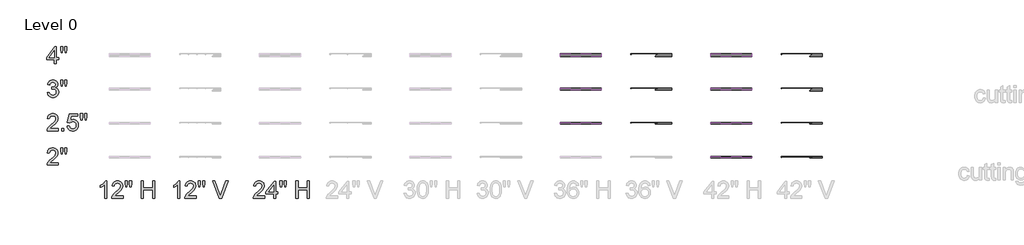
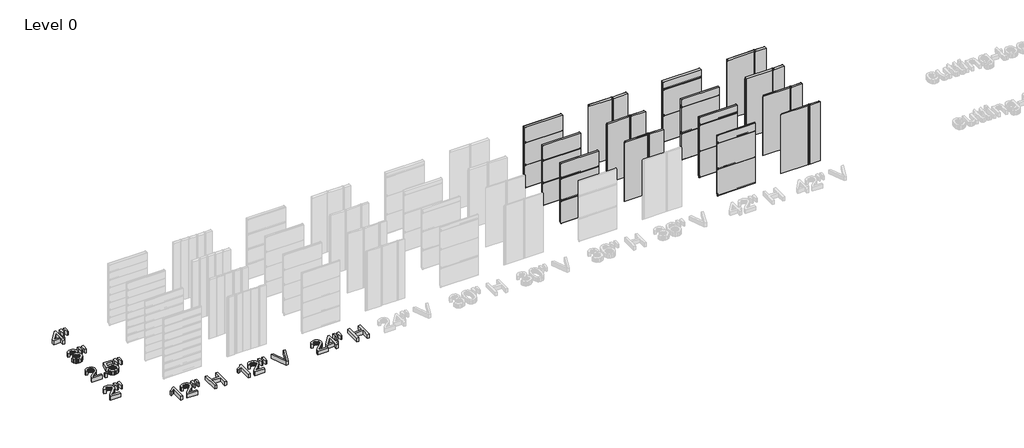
# One storey, part 2 of 5: 35 plates, 7 proxies.
"""IFC4 building model written with IfcOpenShell, lengths in millimetres."""

from ifc_helpers import new_model, si_unit, origin, origin_with_axes, place, context, project, spatial, polyline, outline, extrude, transform, mapped, element, save
from components import plate_dd8bc8b6, plate_0339fd76, plate_47ceeb69, plate_1b0fe15b, plate_1add2ea0, plate_ec5e73b8, plate_5019aeee, plate_1aa83632, plate_90d1a63a, plate_0f1cd221, plate_6702c4e9, plate_3bbae645, plate_aefddf00, plate_1998553f, plate_c49927b6, plate_7b0d1b0b, plate_e8ed7b3b, plate_31e9bed9, plate_fcef75d7, plate_4bd44487, plate_b2574253, plate_c69ce531, plate_15d49aff, plate_4947b39d

model = new_model("IFC4")

# Units and contexts
model_context = context("Model", 3, world=origin())
ifc_project = project(units=[si_unit("LENGTHUNIT", "METRE", prefix="MILLI")], contexts=[model_context])

# Site, building, storey
site = spatial("IfcSite", under=ifc_project)
building = spatial("IfcBuilding", under=site)
storey = spatial("IfcBuildingStorey", under=building, Name="Level 0", Elevation=0.0)

# Proxies
placement = place(None, origin())
element("IfcBuildingElementProxy", 1, Name="24\" Arial", ObjectType="24\" Arial", at=placement, inside=storey, context=model_context, shape_type="SweptSolid", body=[
    extrude(outline(polyline([(-32312.5108068, 10658.7692936), (-32312.5108068, 10582.6275201), (-32712.2551178, 10582.6275201), (-32710.5820807, 10609.433291), (-32704.0758257, 10635.1237038), (-32685.3006325, 10676.1502893), (-32657.8256469, 10715.949981), (-32618.0817231, 10757.6086027), (-32562.4997156, 10804.2119782), (-32480.3350088, 10877.1935707), (-32431.0361847, 10931.0653626), (-32416.657361, 10953.075094), (-32406.3867727, 10974.7873966), (-32400.2244197, 10996.2022704), (-32398.170302, 11017.3197154), (-32400.1082366, 11037.18703), (-32405.9220402, 11055.4463701), (-32415.6117129, 11072.0977357), (-32429.1772547, 11087.1411269), (-32445.8657989, 11099.6006053), (-32464.9244789, 11108.5002328), (-32486.3532947, 11113.8400093), (-32510.1522463, 11115.6199347), (-32535.2245649, 11113.8818352), (-32557.6479082, 11108.6675365), (-32577.4222763, 11099.9770386), (-32594.5476691, 11087.8103417), (-32608.401345, 11072.5764102), (-32618.3605626, 11054.6842088), (-32624.4253218, 11034.1337374), (-32626.5956226, 11010.9249962), (-32702.7373961, 11020.4427178), (-32696.1893151, 11059.7497931), (-32684.278221, 11094.0935251), (-32667.0041138, 11123.4739141), (-32644.3669935, 11147.8909598), (-32616.8873605, 11167.0844123), (-32585.0857153, 11180.7940212), (-32548.9620577, 11189.0197865), (-32508.5163878, 11191.7617083), (-32467.7082266, 11188.713063), (-32431.3893814, 11179.5671273), (-32399.5598522, 11164.3239012), (-32372.219639, 11142.9833846), (-32350.2610281, 11117.1256681), (-32334.5763061, 11088.3308421), (-32325.1654729, 11056.5989067), (-32322.0285285, 11021.9298619), (-32325.4117811, 10985.5134228), (-32335.561539, 10949.72902), (-32353.5745709, 10913.3311702), (-32380.5476454, 10875.0743905), (-32423.5446967, 10829.4004799), (-32489.6296589, 10770.7512379), (-32577.2224413, 10697.5093952), (-32611.575468, 10658.7692936), (-32312.5108068, 10658.7692936)])), origin_with_axes(), (0.0, 0.0, 1.0), 152.4),
    extrude(outline(polyline([(-32217.7797331, 10972.8541094), (-32236.3690333, 11090.4872009), (-32236.3690333, 11191.7617083), (-32160.2272598, 11191.7617083), (-32160.2272598, 11090.4872009), (-32176.8832727, 10972.8541094), (-32217.7797331, 10972.8541094)])), origin_with_axes(), (0.0, 0.0, 1.0), 152.4),
    extrude(outline(polyline([(-32065.9423293, 10972.8541094), (-32084.0854862, 11090.4872009), (-32084.0854862, 11191.7617083), (-32007.9437127, 11191.7617083), (-32007.9437127, 11090.4872009), (-32025.7894409, 10972.8541094), (-32065.9423293, 10972.8541094)])), origin_with_axes(), (0.0, 0.0, 1.0), 152.4),
])
element("IfcBuildingElementProxy", 2, Name="24\" Arial", ObjectType="24\" Arial", at=placement, inside=storey, context=model_context, shape_type="SweptSolid", body=[
    extrude(outline(polyline([(-32312.5108068, 11877.9692936), (-32312.5108068, 11801.8275201), (-32712.2551178, 11801.8275201), (-32710.5820807, 11828.633291), (-32704.0758257, 11854.3237038), (-32685.3006325, 11895.3502893), (-32657.8256469, 11935.149981), (-32618.0817231, 11976.8086027), (-32562.4997156, 12023.4119782), (-32480.3350088, 12096.3935707), (-32431.0361847, 12150.2653626), (-32416.657361, 12172.275094), (-32406.3867727, 12193.9873966), (-32400.2244197, 12215.4022704), (-32398.170302, 12236.5197154), (-32400.1082366, 12256.38703), (-32405.9220402, 12274.6463701), (-32415.6117129, 12291.2977357), (-32429.1772547, 12306.3411269), (-32445.8657989, 12318.8006053), (-32464.9244789, 12327.7002328), (-32486.3532947, 12333.0400093), (-32510.1522463, 12334.8199347), (-32535.2245649, 12333.0818352), (-32557.6479082, 12327.8675365), (-32577.4222763, 12319.1770386), (-32594.5476691, 12307.0103417), (-32608.401345, 12291.7764102), (-32618.3605626, 12273.8842088), (-32624.4253218, 12253.3337374), (-32626.5956226, 12230.1249962), (-32702.7373961, 12239.6427178), (-32696.1893151, 12278.9497931), (-32684.278221, 12313.2935251), (-32667.0041138, 12342.6739141), (-32644.3669935, 12367.0909598), (-32616.8873605, 12386.2844123), (-32585.0857153, 12399.9940212), (-32548.9620577, 12408.2197865), (-32508.5163878, 12410.9617083), (-32467.7082266, 12407.913063), (-32431.3893814, 12398.7671273), (-32399.5598522, 12383.5239012), (-32372.219639, 12362.1833846), (-32350.2610281, 12336.3256681), (-32334.5763061, 12307.5308421), (-32325.1654729, 12275.7989067), (-32322.0285285, 12241.1298619), (-32325.4117811, 12204.7134228), (-32335.561539, 12168.92902), (-32353.5745709, 12132.5311702), (-32380.5476454, 12094.2743905), (-32423.5446967, 12048.6004799), (-32489.6296589, 11989.9512379), (-32577.2224413, 11916.7093952), (-32611.575468, 11877.9692936), (-32312.5108068, 11877.9692936)])), origin_with_axes(), (0.0, 0.0, 1.0), 152.4),
    extrude(outline(polyline([(-32198.2981465, 11801.8275201), (-32198.2981465, 11877.9692936), (-32122.156373, 11877.9692936), (-32122.156373, 11801.8275201), (-32198.2981465, 11801.8275201)])), origin_with_axes(), (0.0, 0.0, 1.0), 152.4),
    extrude(outline(polyline([(-31998.425991, 11963.6287888), (-31922.2842175, 11973.1465105), (-31916.5958917, 11948.6690495), (-31908.3050638, 11927.4354214), (-31897.4117339, 11909.4456262), (-31883.915902, 11894.6996638), (-31867.845452, 11883.2161236), (-31849.2282678, 11875.0135949), (-31828.0643496, 11870.0920777), (-31804.3536972, 11868.4515719), (-31775.3543889, 11870.7334085), (-31749.7755119, 11877.5789183), (-31727.6170661, 11888.9881013), (-31708.8790515, 11904.9609575), (-31693.9797274, 11924.7074416), (-31683.3373531, 11947.4375084), (-31676.9519285, 11973.1511579), (-31674.8234536, 12001.84839), (-31676.817156, 12028.970179), (-31682.7982634, 12053.0805013), (-31692.7667756, 12074.179357), (-31706.7226927, 12092.2667461), (-31724.7124879, 12106.7756948), (-31746.7826346, 12117.1392297), (-31772.9331326, 12123.3573506), (-31803.163982, 12125.4300576), (-31840.1009215, 12122.1211621), (-31870.0111054, 12112.1944758), (-31893.8983562, 12096.9884283), (-31912.7664958, 12077.8414491), (-31988.9082694, 12087.3591708), (-31922.2842175, 12401.4439866), (-31627.2348451, 12401.4439866), (-31627.2348451, 12325.3022131), (-31860.7164553, 12325.3022131), (-31893.2849093, 12157.5523683), (-31866.4140758, 12176.8108833), (-31838.8926169, 12190.5669654), (-31810.7205325, 12198.8206147), (-31781.8978226, 12201.5718311), (-31744.8168161, 12198.1606945), (-31710.7565708, 12187.9272848), (-31679.7170869, 12170.8716018), (-31651.6983642, 12146.9936458), (-31628.5035649, 12117.7526766), (-31611.9358511, 12084.6079544), (-31601.9952228, 12047.5594791), (-31598.6816801, 12006.6072509), (-31601.6652628, 11967.1607559), (-31610.6160108, 11930.4654773), (-31625.5339242, 11896.5214152), (-31646.4190029, 11865.3285695), (-31678.0579918, 11833.3828572), (-31714.976342, 11810.5644912), (-31757.1740534, 11796.8734716), (-31804.651126, 11792.3097984), (-31843.9442593, 11795.2422605), (-31879.4358806, 11804.0396468), (-31911.1259901, 11818.7019574), (-31939.0145877, 11839.2291921), (-31962.2186816, 11864.5989395), (-31979.8552802, 11893.7887881), (-31991.9243833, 11926.7987379), (-31998.425991, 11963.6287888)])), origin_with_axes(), (0.0, 0.0, 1.0), 152.4),
    extrude(outline(polyline([(-31513.4683281, 12192.0541094), (-31532.0576283, 12309.6872009), (-31532.0576283, 12410.9617083), (-31455.9158547, 12410.9617083), (-31455.9158547, 12309.6872009), (-31472.5718677, 12192.0541094), (-31513.4683281, 12192.0541094)])), origin_with_axes(), (0.0, 0.0, 1.0), 152.4),
    extrude(outline(polyline([(-31361.6309242, 12192.0541094), (-31379.7740812, 12309.6872009), (-31379.7740812, 12410.9617083), (-31303.6323077, 12410.9617083), (-31303.6323077, 12309.6872009), (-31321.4780359, 12192.0541094), (-31361.6309242, 12192.0541094)])), origin_with_axes(), (0.0, 0.0, 1.0), 152.4),
])
element("IfcBuildingElementProxy", 3, Name="24\" Arial", ObjectType="24\" Arial", at=placement, inside=storey, context=model_context, shape_type="SweptSolid", body=[
    extrude(outline(polyline([(-32702.7373961, 13157.4287888), (-32626.5956226, 13166.9465105), (-32609.5492343, 13119.0976519), (-32598.0563995, 13101.0009682), (-32584.5838042, 13086.7894482), (-32568.8247249, 13076.0541273), (-32550.4724383, 13068.386041), (-32529.5269444, 13063.7851892), (-32505.988243, 13062.2515719), (-32478.4017216, 13064.3614575), (-32453.7894881, 13070.6911142), (-32432.1515427, 13081.2405421), (-32413.4878854, 13096.0097411), (-32398.4584362, 13113.8926478), (-32387.7231153, 13133.783199), (-32381.2819228, 13155.6813946), (-32379.1348586, 13179.5872347), (-32381.2633335, 13202.35448), (-32387.6487581, 13223.0676078), (-32398.2911325, 13241.7266178), (-32413.1904565, 13258.3315102), (-32431.3707921, 13271.9621145), (-32451.8562009, 13281.6982605), (-32474.6466829, 13287.5399481), (-32499.7422382, 13289.4871773), (-32523.7967926, 13287.4051757), (-32553.1307083, 13281.1591708), (-32544.6539874, 13357.3009443), (-32532.4594065, 13356.4086579), (-32486.8412638, 13361.8739122), (-32446.0563393, 13378.2696749), (-32429.2702012, 13390.6687381), (-32417.2801026, 13406.0049108), (-32410.0860434, 13424.2781929), (-32407.6880237, 13445.4885844), (-32409.4261233, 13462.7069236), (-32414.640422, 13478.3730564), (-32423.3309198, 13492.4869825), (-32435.4976168, 13505.0487021), (-32450.4062355, 13515.3611164), (-32467.3224987, 13522.7271266), (-32486.2464062, 13527.1467327), (-32507.1779582, 13528.6199347), (-32528.0537423, 13527.1327907), (-32547.107775, 13522.6713587), (-32564.3400563, 13515.2356386), (-32579.7505861, 13504.8256305), (-32592.9582839, 13491.4413344), (-32603.5820689, 13475.0827502), (-32611.6219413, 13455.7498781), (-32617.0779009, 13433.4427178), (-32693.2196744, 13442.9604395), (-32684.1945692, 13479.311816), (-32670.8009784, 13511.3318856), (-32653.0389021, 13539.0206482), (-32630.9083402, 13562.3781039), (-32605.1063916, 13580.9209308), (-32576.3301549, 13594.1658072), (-32544.5796302, 13602.112733), (-32509.8548175, 13604.7617083), (-32461.9873695, 13599.5381149), (-32418.0236746, 13583.8673349), (-32380.95661, 13559.1435656), (-32353.7790532, 13526.7610047), (-32337.1044509, 13489.4522793), (-32331.5462502, 13449.9500164), (-32336.8256114, 13413.1432021), (-32352.6636952, 13379.7568189), (-32378.8374298, 13351.3151897), (-32415.1237438, 13329.3426369), (-32389.749349, 13321.4050057), (-32367.4607781, 13310.0841219), (-32348.258031, 13295.3799854), (-32332.1411078, 13277.2925964), (-32319.3888479, 13256.2680979), (-32310.2800908, 13232.7526332), (-32304.8148365, 13206.7462022), (-32302.9930851, 13178.248805), (-32306.6365879, 13139.6202393), (-32317.5670964, 13104.0403187), (-32335.7846106, 13071.5090434), (-32361.2891305, 13042.0264134), (-32392.3611457, 13017.5628943), (-32427.2811461, 13000.0889522), (-32466.0491316, 12989.6045869), (-32508.6651022, 12986.1097984), (-32547.1821322, 12989.0933811), (-32582.2787309, 12998.0441291), (-32613.9548984, 13012.9620425), (-32642.2106347, 13033.8471213), (-32665.9026978, 13059.4724716), (-32683.8878457, 13088.6111996), (-32696.1660785, 13121.2633054), (-32702.7373961, 13157.4287888)])), origin_with_axes(), (0.0, 0.0, 1.0), 152.4),
    extrude(outline(polyline([(-32217.7797331, 13385.8541094), (-32236.3690333, 13503.4872009), (-32236.3690333, 13604.7617083), (-32160.2272598, 13604.7617083), (-32160.2272598, 13503.4872009), (-32176.8832727, 13385.8541094), (-32217.7797331, 13385.8541094)])), origin_with_axes(), (0.0, 0.0, 1.0), 152.4),
    extrude(outline(polyline([(-32065.9423293, 13385.8541094), (-32084.0854862, 13503.4872009), (-32084.0854862, 13604.7617083), (-32007.9437127, 13604.7617083), (-32007.9437127, 13503.4872009), (-32025.7894409, 13385.8541094), (-32065.9423293, 13385.8541094)])), origin_with_axes(), (0.0, 0.0, 1.0), 152.4),
])
element("IfcBuildingElementProxy", 4, Name="24\" Arial", ObjectType="24\" Arial", at=placement, inside=storey, context=model_context, shape_type="SweptSolid", body=[
    extrude(outline(polyline([(-32455.2766321, 14189.4275201), (-32455.2766321, 14332.1933455), (-32731.2905611, 14332.1933455), (-32731.2905611, 14408.335119), (-32436.2411888, 14789.0439866), (-32379.1348586, 14789.0439866), (-32379.1348586, 14408.335119), (-32302.9930851, 14408.335119), (-32302.9930851, 14332.1933455), (-32379.1348586, 14332.1933455), (-32379.1348586, 14189.4275201), (-32455.2766321, 14189.4275201)]), holes=[polyline([(-32455.2766321, 14408.335119), (-32455.2766321, 14643.601302), (-32637.6004883, 14408.335119), (-32455.2766321, 14408.335119)])]), origin_with_axes(), (0.0, 0.0, 1.0), 152.4),
    extrude(outline(polyline([(-32217.7797331, 14579.6541094), (-32236.3690333, 14697.2872009), (-32236.3690333, 14798.5617083), (-32160.2272598, 14798.5617083), (-32160.2272598, 14697.2872009), (-32176.8832727, 14579.6541094), (-32217.7797331, 14579.6541094)])), origin_with_axes(), (0.0, 0.0, 1.0), 152.4),
    extrude(outline(polyline([(-32065.9423293, 14579.6541094), (-32084.0854862, 14697.2872009), (-32084.0854862, 14798.5617083), (-32007.9437127, 14798.5617083), (-32007.9437127, 14697.2872009), (-32025.7894409, 14579.6541094), (-32065.9423293, 14579.6541094)])), origin_with_axes(), (0.0, 0.0, 1.0), 152.4),
])
element("IfcBuildingElementProxy", 5, Name="24\" Arial", ObjectType="24\" Arial", at=placement, inside=storey, context=model_context, shape_type="SweptSolid", body=[
    extrude(outline(polyline([(-30589.8489204, 9409.440542), (-30665.9906939, 9409.440542), (-30665.9906939, 9884.1369113), (-30697.7783972, 9858.4279091), (-30738.1171786, 9832.7560856), (-30780.4636044, 9810.3188003), (-30818.2742409, 9794.3134128), (-30818.2742409, 9866.2911831), (-30758.4724623, 9898.8224584), (-30706.6640827, 9937.5253814), (-30665.8233902, 9978.682092), (-30638.9246728, 10018.5747302), (-30589.8489204, 10018.5747302), (-30589.8489204, 9409.440542)])), origin_with_axes(), (0.0, 0.0, 1.0), 152.4),
    extrude(outline(polyline([(-30018.785619, 9485.5823155), (-30018.785619, 9409.440542), (-30418.52993, 9409.440542), (-30416.8568929, 9436.2463129), (-30410.3506379, 9461.9367257), (-30391.5754447, 9502.9633112), (-30364.100459, 9542.7630029), (-30324.3565353, 9584.4216246), (-30268.7745278, 9631.0250001), (-30186.609821, 9704.0065926), (-30137.3109969, 9757.8783845), (-30122.9321732, 9779.8881159), (-30112.6615849, 9801.6004185), (-30106.4992319, 9823.0152923), (-30104.4451142, 9844.1327373), (-30106.3830487, 9864.0000519), (-30112.1968524, 9882.259392), (-30121.8865251, 9898.9107576), (-30135.4520669, 9913.9541488), (-30152.1406111, 9926.4136272), (-30171.1992911, 9935.3132547), (-30192.6281069, 9940.6530311), (-30216.4270585, 9942.4329566), (-30241.4993771, 9940.6948571), (-30263.9227204, 9935.4805584), (-30283.6970885, 9926.7900605), (-30300.8224813, 9914.6233636), (-30314.6761572, 9899.3894321), (-30324.6353748, 9881.4972307), (-30330.700134, 9860.9467593), (-30332.8704348, 9837.7380181), (-30409.0122083, 9847.2557397), (-30402.4641273, 9886.562815), (-30390.5530332, 9920.906547), (-30373.278926, 9950.286936), (-30350.6418057, 9974.7039817), (-30323.1621727, 9993.8974342), (-30291.3605275, 10007.6070431), (-30255.2368699, 10015.8328084), (-30214.7912, 10018.5747302), (-30173.9830388, 10015.5260849), (-30137.6641936, 10006.3801492), (-30105.8346644, 9991.1369231), (-30078.4944512, 9969.7964065), (-30056.5358403, 9943.93869), (-30040.8511183, 9915.143864), (-30031.4402851, 9883.4119286), (-30028.3033407, 9848.7428838), (-30031.6865933, 9812.3264447), (-30041.8363512, 9776.5420419), (-30059.8493831, 9740.1441921), (-30086.8224576, 9701.8874124), (-30129.8195089, 9656.2135018), (-30195.9044711, 9597.5642598), (-30283.4972535, 9524.3224171), (-30317.8502802, 9485.5823155), (-30018.785619, 9485.5823155)])), origin_with_axes(), (0.0, 0.0, 1.0), 152.4),
    extrude(outline(polyline([(-29924.0545453, 9799.6671313), (-29942.6438455, 9917.3002228), (-29942.6438455, 10018.5747302), (-29866.502072, 10018.5747302), (-29866.502072, 9917.3002228), (-29883.1580849, 9799.6671313), (-29924.0545453, 9799.6671313)])), origin_with_axes(), (0.0, 0.0, 1.0), 152.4),
    extrude(outline(polyline([(-29772.2171415, 9799.6671313), (-29790.3602984, 9917.3002228), (-29790.3602984, 10018.5747302), (-29714.2185249, 10018.5747302), (-29714.2185249, 9917.3002228), (-29732.0642531, 9799.6671313), (-29772.2171415, 9799.6671313)])), origin_with_axes(), (0.0, 0.0, 1.0), 152.4),
    extrude(outline(polyline([(-29371.5805441, 9409.440542), (-29371.5805441, 10018.5747302), (-29295.4387706, 10018.5747302), (-29295.4387706, 9771.1139662), (-28971.8362331, 9771.1139662), (-28971.8362331, 10018.5747302), (-28895.6944596, 10018.5747302), (-28895.6944596, 9409.440542), (-28971.8362331, 9409.440542), (-28971.8362331, 9694.9721927), (-29295.4387706, 9694.9721927), (-29295.4387706, 9409.440542), (-29371.5805441, 9409.440542)])), origin_with_axes(), (0.0, 0.0, 1.0), 152.4),
])
element("IfcBuildingElementProxy", 6, Name="24\" Arial", ObjectType="24\" Arial", at=placement, inside=storey, context=model_context, shape_type="SweptSolid", body=[
    extrude(outline(polyline([(-27999.0489204, 9409.440542), (-28075.1906939, 9409.440542), (-28075.1906939, 9884.1369113), (-28106.9783972, 9858.4279091), (-28147.3171786, 9832.7560856), (-28189.6636044, 9810.3188003), (-28227.4742409, 9794.3134128), (-28227.4742409, 9866.2911831), (-28167.6724623, 9898.8224584), (-28115.8640827, 9937.5253814), (-28075.0233902, 9978.682092), (-28048.1246728, 10018.5747302), (-27999.0489204, 10018.5747302), (-27999.0489204, 9409.440542)])), origin_with_axes(), (0.0, 0.0, 1.0), 152.4),
    extrude(outline(polyline([(-27427.985619, 9485.5823155), (-27427.985619, 9409.440542), (-27827.72993, 9409.440542), (-27826.0568929, 9436.2463129), (-27819.5506379, 9461.9367257), (-27800.7754447, 9502.9633112), (-27773.300459, 9542.7630029), (-27733.5565353, 9584.4216246), (-27677.9745278, 9631.0250001), (-27595.809821, 9704.0065926), (-27546.5109969, 9757.8783845), (-27532.1321732, 9779.8881159), (-27521.8615849, 9801.6004185), (-27515.6992319, 9823.0152923), (-27513.6451142, 9844.1327373), (-27515.5830487, 9864.0000519), (-27521.3968524, 9882.259392), (-27531.0865251, 9898.9107576), (-27544.6520669, 9913.9541488), (-27561.3406111, 9926.4136272), (-27580.3992911, 9935.3132547), (-27601.8281069, 9940.6530311), (-27625.6270585, 9942.4329566), (-27650.6993771, 9940.6948571), (-27673.1227204, 9935.4805584), (-27692.8970885, 9926.7900605), (-27710.0224813, 9914.6233636), (-27723.8761572, 9899.3894321), (-27733.8353748, 9881.4972307), (-27739.900134, 9860.9467593), (-27742.0704348, 9837.7380181), (-27818.2122083, 9847.2557397), (-27811.6641273, 9886.562815), (-27799.7530332, 9920.906547), (-27782.478926, 9950.286936), (-27759.8418057, 9974.7039817), (-27732.3621727, 9993.8974342), (-27700.5605275, 10007.6070431), (-27664.4368699, 10015.8328084), (-27623.9912, 10018.5747302), (-27583.1830388, 10015.5260849), (-27546.8641936, 10006.3801492), (-27515.0346644, 9991.1369231), (-27487.6944512, 9969.7964065), (-27465.7358403, 9943.93869), (-27450.0511183, 9915.143864), (-27440.6402851, 9883.4119286), (-27437.5033407, 9848.7428838), (-27440.8865933, 9812.3264447), (-27451.0363512, 9776.5420419), (-27469.0493831, 9740.1441921), (-27496.0224576, 9701.8874124), (-27539.0195089, 9656.2135018), (-27605.1044711, 9597.5642598), (-27692.6972535, 9524.3224171), (-27727.0502802, 9485.5823155), (-27427.985619, 9485.5823155)])), origin_with_axes(), (0.0, 0.0, 1.0), 152.4),
    extrude(outline(polyline([(-27333.2545453, 9799.6671313), (-27351.8438455, 9917.3002228), (-27351.8438455, 10018.5747302), (-27275.702072, 10018.5747302), (-27275.702072, 9917.3002228), (-27292.3580849, 9799.6671313), (-27333.2545453, 9799.6671313)])), origin_with_axes(), (0.0, 0.0, 1.0), 152.4),
    extrude(outline(polyline([(-27181.4171415, 9799.6671313), (-27199.5602984, 9917.3002228), (-27199.5602984, 10018.5747302), (-27123.4185249, 10018.5747302), (-27123.4185249, 9917.3002228), (-27141.2642531, 9799.6671313), (-27181.4171415, 9799.6671313)])), origin_with_axes(), (0.0, 0.0, 1.0), 152.4),
    extrude(outline(polyline([(-26600.8361184, 9409.440542), (-26843.2405927, 10018.5747302), (-26761.7451007, 10018.5747302), (-26599.4976888, 9579.7185316), (-26566.6318061, 9480.8234547), (-26534.2120666, 9579.7185316), (-26371.5185114, 10018.5747302), (-26290.0230195, 10018.5747302), (-26522.1662001, 9409.440542), (-26600.8361184, 9409.440542)])), origin_with_axes(), (0.0, 0.0, 1.0), 152.4),
])
element("IfcBuildingElementProxy", 7, Name="24\" Arial", ObjectType="24\" Arial", at=placement, inside=storey, context=model_context, shape_type="SweptSolid", body=[
    extrude(outline(polyline([(-24998.7539818, 9485.5823155), (-24998.7539818, 9409.440542), (-25398.4982928, 9409.440542), (-25396.8252557, 9436.2463129), (-25390.3190007, 9461.9367257), (-25371.5438075, 9502.9633112), (-25344.0688218, 9542.7630029), (-25304.3248981, 9584.4216246), (-25248.7428905, 9631.0250001), (-25166.5781838, 9704.0065926), (-25117.2793597, 9757.8783845), (-25102.900536, 9779.8881159), (-25092.6299477, 9801.6004185), (-25086.4675947, 9823.0152923), (-25084.413477, 9844.1327373), (-25086.3514115, 9864.0000519), (-25092.1652152, 9882.259392), (-25101.8548879, 9898.9107576), (-25115.4204297, 9913.9541488), (-25132.1089739, 9926.4136272), (-25151.1676539, 9935.3132547), (-25172.5964697, 9940.6530311), (-25196.3954213, 9942.4329566), (-25221.4677399, 9940.6948571), (-25243.8910832, 9935.4805584), (-25263.6654513, 9926.7900605), (-25280.790844, 9914.6233636), (-25294.64452, 9899.3894321), (-25304.6037376, 9881.4972307), (-25310.6684968, 9860.9467593), (-25312.8387975, 9837.7380181), (-25388.9805711, 9847.2557397), (-25382.4324901, 9886.562815), (-25370.521396, 9920.906547), (-25353.2472888, 9950.286936), (-25330.6101685, 9974.7039817), (-25303.1305355, 9993.8974342), (-25271.3288903, 10007.6070431), (-25235.2052327, 10015.8328084), (-25194.7595628, 10018.5747302), (-25153.9514016, 10015.5260849), (-25117.6325564, 10006.3801492), (-25085.8030272, 9991.1369231), (-25058.462814, 9969.7964065), (-25036.5042031, 9943.93869), (-25020.8194811, 9915.143864), (-25011.4086479, 9883.4119286), (-25008.2717035, 9848.7428838), (-25011.6549561, 9812.3264447), (-25021.804714, 9776.5420419), (-25039.8177459, 9740.1441921), (-25066.7908204, 9701.8874124), (-25109.7878717, 9656.2135018), (-25175.8728339, 9597.5642598), (-25263.4656163, 9524.3224171), (-25297.818643, 9485.5823155), (-24998.7539818, 9485.5823155)])), origin_with_axes(), (0.0, 0.0, 1.0), 152.4),
    extrude(outline(polyline([(-24675.1514443, 9409.440542), (-24675.1514443, 9552.2063674), (-24951.1653733, 9552.2063674), (-24951.1653733, 9628.3481409), (-24656.116001, 10009.0570085), (-24599.0096708, 10009.0570085), (-24599.0096708, 9628.3481409), (-24522.8678973, 9628.3481409), (-24522.8678973, 9552.2063674), (-24599.0096708, 9552.2063674), (-24599.0096708, 9409.440542), (-24675.1514443, 9409.440542)]), holes=[polyline([(-24675.1514443, 9628.3481409), (-24675.1514443, 9863.6143239), (-24857.4753005, 9628.3481409), (-24675.1514443, 9628.3481409)])]), origin_with_axes(), (0.0, 0.0, 1.0), 152.4),
    extrude(outline(polyline([(-24437.6545453, 9799.6671313), (-24456.2438455, 9917.3002228), (-24456.2438455, 10018.5747302), (-24380.102072, 10018.5747302), (-24380.102072, 9917.3002228), (-24396.7580849, 9799.6671313), (-24437.6545453, 9799.6671313)])), origin_with_axes(), (0.0, 0.0, 1.0), 152.4),
    extrude(outline(polyline([(-24285.8171415, 9799.6671313), (-24303.9602984, 9917.3002228), (-24303.9602984, 10018.5747302), (-24227.8185249, 10018.5747302), (-24227.8185249, 9917.3002228), (-24245.6642531, 9799.6671313), (-24285.8171415, 9799.6671313)])), origin_with_axes(), (0.0, 0.0, 1.0), 152.4),
    extrude(outline(polyline([(-23885.1805441, 9409.440542), (-23885.1805441, 10018.5747302), (-23809.0387706, 10018.5747302), (-23809.0387706, 9771.1139662), (-23485.4362331, 9771.1139662), (-23485.4362331, 10018.5747302), (-23409.2944596, 10018.5747302), (-23409.2944596, 9409.440542), (-23485.4362331, 9409.440542), (-23485.4362331, 9694.9721927), (-23809.0387706, 9694.9721927), (-23809.0387706, 9409.440542), (-23885.1805441, 9409.440542)])), origin_with_axes(), (0.0, 0.0, 1.0), 152.4),
])

# Plates
plate_shape = plate_dd8bc8b6(model_context)
element("IfcPlate", 8, ObjectType="KIP-42-DWTR-R19-CP-Hz-F : Hz 2\"", at=placement, inside=storey, context=model_context, shape_type="MappedRepresentation", body=[
    mapped(plate_shape, transform((-8448.7250935, 10881.8207172, 0.0), x_axis=(1.0, 0.0, 0.0), y_axis=(0.0, 1.0, 0.0), z_axis=(0.0, 0.0, 1.0))),
])
element("IfcPlate", 9, ObjectType="KIP-42-DWTR-R19-CP-Hz-F : Hz 2\"", at=placement, inside=storey, context=model_context, shape_type="MappedRepresentation", body=[
    mapped(plate_shape, transform((-8448.7250935, 10881.8207172, 1066.8), x_axis=(1.0, 0.0, 0.0), y_axis=(0.0, 1.0, 0.0), z_axis=(0.0, 0.0, 1.0))),
])
plate_2_shape = plate_0339fd76(model_context)
element("IfcPlate", 10, ObjectType="KIP-42-DWTR-R19-CP-Hz-F : Hz 2\"", at=placement, inside=storey, context=model_context, shape_type="MappedRepresentation", body=[
    mapped(plate_2_shape, transform((-8448.7250935, 10881.8207172, 2133.6), x_axis=(1.0, 0.0, 0.0), y_axis=(0.0, 1.0, 0.0), z_axis=(0.0, 0.0, 1.0))),
])
element("IfcPlate", 11, ObjectType="KIP-42-DWTR-R19-CP-Hz-F : Hz 2.5\"", at=placement, inside=storey, context=model_context, shape_type="MappedRepresentation", body=[
    mapped(plate_shape, transform((-8448.7250935, 12101.0207172, 0.0), x_axis=(1.0, 0.0, 0.0), y_axis=(0.0, 1.0, 0.0), z_axis=(0.0, 0.0, 1.0))),
])
element("IfcPlate", 12, ObjectType="KIP-42-DWTR-R19-CP-Hz-F : Hz 2.5\"", at=placement, inside=storey, context=model_context, shape_type="MappedRepresentation", body=[
    mapped(plate_shape, transform((-8448.7250935, 12101.0207172, 1066.8), x_axis=(1.0, 0.0, 0.0), y_axis=(0.0, 1.0, 0.0), z_axis=(0.0, 0.0, 1.0))),
])
element("IfcPlate", 13, ObjectType="KIP-42-DWTR-R19-CP-Hz-F : Hz 2.5\"", at=placement, inside=storey, context=model_context, shape_type="MappedRepresentation", body=[
    mapped(plate_2_shape, transform((-8448.7250935, 12101.0207172, 2133.6), x_axis=(1.0, 0.0, 0.0), y_axis=(0.0, 1.0, 0.0), z_axis=(0.0, 0.0, 1.0))),
])
plate_3_shape = plate_47ceeb69(model_context)
element("IfcPlate", 14, ObjectType="KIP-36-DWTR-R19-CP-Hz-F : Hz 2.5\"", at=placement, inside=storey, context=model_context, shape_type="MappedRepresentation", body=[
    mapped(plate_3_shape, transform((-13782.7250935, 12101.0207172, 0.0), x_axis=(1.0, 0.0, 0.0), y_axis=(0.0, 1.0, 0.0), z_axis=(0.0, 0.0, 1.0))),
])
element("IfcPlate", 15, ObjectType="KIP-36-DWTR-R19-CP-Hz-F : Hz 2.5\"", at=placement, inside=storey, context=model_context, shape_type="MappedRepresentation", body=[
    mapped(plate_3_shape, transform((-13782.7250935, 12101.0207172, 914.4), x_axis=(1.0, 0.0, 0.0), y_axis=(0.0, 1.0, 0.0), z_axis=(0.0, 0.0, 1.0))),
])
plate_4_shape = plate_1b0fe15b(model_context)
element("IfcPlate", 16, ObjectType="KIP-36-DWTR-R19-CP-Hz-F : Hz 2.5\"", at=placement, inside=storey, context=model_context, shape_type="MappedRepresentation", body=[
    mapped(plate_4_shape, transform((-13782.7250935, 12101.0207172, 1828.8), x_axis=(1.0, 0.0, 0.0), y_axis=(0.0, 1.0, 0.0), z_axis=(0.0, 0.0, 1.0))),
])
plate_5_shape = plate_1add2ea0(model_context)
element("IfcPlate", 17, ObjectType="KIP-42-DWTR-R19-CP-Hz-F : Hz 3\"", at=placement, inside=storey, context=model_context, shape_type="MappedRepresentation", body=[
    mapped(plate_5_shape, transform((-8448.7250935, 13320.2207172, 0.0), x_axis=(1.0, 0.0, 0.0), y_axis=(0.0, 1.0, 0.0), z_axis=(0.0, 0.0, 1.0))),
])
element("IfcPlate", 18, ObjectType="KIP-42-DWTR-R19-CP-Hz-F : Hz 3\"", at=placement, inside=storey, context=model_context, shape_type="MappedRepresentation", body=[
    mapped(plate_5_shape, transform((-8448.7250935, 13320.2207172, 1066.8), x_axis=(1.0, 0.0, 0.0), y_axis=(0.0, 1.0, 0.0), z_axis=(0.0, 0.0, 1.0))),
])
plate_6_shape = plate_ec5e73b8(model_context)
element("IfcPlate", 19, ObjectType="KIP-42-DWTR-R19-CP-Hz-F : Hz 3\"", at=placement, inside=storey, context=model_context, shape_type="MappedRepresentation", body=[
    mapped(plate_6_shape, transform((-8448.7250935, 13320.2207172, 2133.6), x_axis=(1.0, 0.0, 0.0), y_axis=(0.0, 1.0, 0.0), z_axis=(0.0, 0.0, 1.0))),
])
plate_7_shape = plate_5019aeee(model_context)
element("IfcPlate", 20, ObjectType="KIP-36-DWTR-R19-CP-Hz-F : Hz 3\"", at=placement, inside=storey, context=model_context, shape_type="MappedRepresentation", body=[
    mapped(plate_7_shape, transform((-13782.7250935, 13320.2207172, 0.0), x_axis=(1.0, 0.0, 0.0), y_axis=(0.0, 1.0, 0.0), z_axis=(0.0, 0.0, 1.0))),
])
element("IfcPlate", 21, ObjectType="KIP-36-DWTR-R19-CP-Hz-F : Hz 3\"", at=placement, inside=storey, context=model_context, shape_type="MappedRepresentation", body=[
    mapped(plate_7_shape, transform((-13782.7250935, 13320.2207172, 914.4), x_axis=(1.0, 0.0, 0.0), y_axis=(0.0, 1.0, 0.0), z_axis=(0.0, 0.0, 1.0))),
])
plate_8_shape = plate_1aa83632(model_context)
element("IfcPlate", 22, ObjectType="KIP-36-DWTR-R19-CP-Hz-F : Hz 3\"", at=placement, inside=storey, context=model_context, shape_type="MappedRepresentation", body=[
    mapped(plate_8_shape, transform((-13782.7250935, 13320.2207172, 1828.8), x_axis=(1.0, 0.0, 0.0), y_axis=(0.0, 1.0, 0.0), z_axis=(0.0, 0.0, 1.0))),
])
plate_9_shape = plate_90d1a63a(model_context)
element("IfcPlate", 23, ObjectType="KIP-42-DWTR-R19-CP-Hz-F : Hz 4\"", at=placement, inside=storey, context=model_context, shape_type="MappedRepresentation", body=[
    mapped(plate_9_shape, transform((-8448.7250935, 14539.4207172, 0.0), x_axis=(1.0, 0.0, 0.0), y_axis=(0.0, 1.0, 0.0), z_axis=(0.0, 0.0, 1.0))),
])
element("IfcPlate", 24, ObjectType="KIP-42-DWTR-R19-CP-Hz-F : Hz 4\"", at=placement, inside=storey, context=model_context, shape_type="MappedRepresentation", body=[
    mapped(plate_9_shape, transform((-8448.7250935, 14539.4207172, 1066.8), x_axis=(1.0, 0.0, 0.0), y_axis=(0.0, 1.0, 0.0), z_axis=(0.0, 0.0, 1.0))),
])
plate_10_shape = plate_0f1cd221(model_context)
element("IfcPlate", 25, ObjectType="KIP-42-DWTR-R19-CP-Hz-F : Hz 4\"", at=placement, inside=storey, context=model_context, shape_type="MappedRepresentation", body=[
    mapped(plate_10_shape, transform((-8448.7250935, 14539.4207172, 2133.6), x_axis=(1.0, 0.0, 0.0), y_axis=(0.0, 1.0, 0.0), z_axis=(0.0, 0.0, 1.0))),
])
plate_11_shape = plate_6702c4e9(model_context)
element("IfcPlate", 26, ObjectType="KIP-36-DWTR-R19-CP-Hz-F : Hz 4\"", at=placement, inside=storey, context=model_context, shape_type="MappedRepresentation", body=[
    mapped(plate_11_shape, transform((-13782.7250935, 14539.4207172, 0.0), x_axis=(1.0, 0.0, 0.0), y_axis=(0.0, 1.0, 0.0), z_axis=(0.0, 0.0, 1.0))),
])
element("IfcPlate", 27, ObjectType="KIP-36-DWTR-R19-CP-Hz-F : Hz 4\"", at=placement, inside=storey, context=model_context, shape_type="MappedRepresentation", body=[
    mapped(plate_11_shape, transform((-13782.7250935, 14539.4207172, 914.4), x_axis=(1.0, 0.0, 0.0), y_axis=(0.0, 1.0, 0.0), z_axis=(0.0, 0.0, 1.0))),
])
plate_12_shape = plate_3bbae645(model_context)
element("IfcPlate", 28, ObjectType="KIP-36-DWTR-R19-CP-Hz-F : Hz 4\"", at=placement, inside=storey, context=model_context, shape_type="MappedRepresentation", body=[
    mapped(plate_12_shape, transform((-13782.7250935, 14539.4207172, 1828.8), x_axis=(1.0, 0.0, 0.0), y_axis=(0.0, 1.0, 0.0), z_axis=(0.0, 0.0, 1.0))),
])
plate_13_shape = plate_aefddf00(model_context)
element("IfcPlate", 29, ObjectType="KIP-42-DWTR-R19-CP-Vt-F : Vt 2\"", at=placement, inside=storey, context=model_context, shape_type="MappedRepresentation", body=[
    mapped(plate_13_shape, transform((-6145.5413834, 10881.8207172, 0.0), x_axis=(1.0, 0.0, 0.0), y_axis=(0.0, 1.0, 0.0), z_axis=(0.0, 0.0, 1.0))),
])
plate_14_shape = plate_1998553f(model_context)
element("IfcPlate", 30, ObjectType="KIP-42-DWTR-R19-CP-Vt-F : Vt 2\"", at=placement, inside=storey, context=model_context, shape_type="MappedRepresentation", body=[
    mapped(plate_14_shape, transform((-5415.5413834, 10881.8207172, 0.0), x_axis=(1.0, 0.0, 0.0), y_axis=(0.0, 1.0, 0.0), z_axis=(0.0, 0.0, 1.0))),
])
plate_15_shape = plate_c49927b6(model_context)
element("IfcPlate", 31, ObjectType="KIP-42-DWTR-R19-CP-Vt-F : Vt 2.5\"", at=placement, inside=storey, context=model_context, shape_type="MappedRepresentation", body=[
    mapped(plate_15_shape, transform((-6145.5413834, 12101.0207172, 0.0), x_axis=(1.0, 0.0, 0.0), y_axis=(0.0, 1.0, 0.0), z_axis=(0.0, 0.0, 1.0))),
])
plate_16_shape = plate_7b0d1b0b(model_context)
element("IfcPlate", 32, ObjectType="KIP-42-DWTR-R19-CP-Vt-F : Vt 2.5\"", at=placement, inside=storey, context=model_context, shape_type="MappedRepresentation", body=[
    mapped(plate_16_shape, transform((-5415.5413834, 12101.0207172, 0.0), x_axis=(1.0, 0.0, 0.0), y_axis=(0.0, 1.0, 0.0), z_axis=(0.0, 0.0, 1.0))),
])
plate_17_shape = plate_e8ed7b3b(model_context)
element("IfcPlate", 33, ObjectType="KIP-36-DWTR-R19-CP-Vt-F : Vt 2.5\"", at=placement, inside=storey, context=model_context, shape_type="MappedRepresentation", body=[
    mapped(plate_17_shape, transform((-11555.7413834, 12101.0207172, 0.0), x_axis=(1.0, 0.0, 0.0), y_axis=(0.0, 1.0, 0.0), z_axis=(0.0, 0.0, 1.0))),
])
plate_18_shape = plate_31e9bed9(model_context)
element("IfcPlate", 34, ObjectType="KIP-36-DWTR-R19-CP-Vt-F : Vt 2.5\"", at=placement, inside=storey, context=model_context, shape_type="MappedRepresentation", body=[
    mapped(plate_18_shape, transform((-10825.7413834, 12101.0207172, 0.0), x_axis=(1.0, 0.0, 0.0), y_axis=(0.0, 1.0, 0.0), z_axis=(0.0, 0.0, 1.0))),
])
plate_19_shape = plate_fcef75d7(model_context)
element("IfcPlate", 35, ObjectType="KIP-42-DWTR-R19-CP-Vt-F : Vt 3\"", at=placement, inside=storey, context=model_context, shape_type="MappedRepresentation", body=[
    mapped(plate_19_shape, transform((-6145.5413834, 13320.2207172, 0.0), x_axis=(1.0, 0.0, 0.0), y_axis=(0.0, 1.0, 0.0), z_axis=(0.0, 0.0, 1.0))),
])
plate_20_shape = plate_4bd44487(model_context)
element("IfcPlate", 36, ObjectType="KIP-42-DWTR-R19-CP-Vt-F : Vt 3\"", at=placement, inside=storey, context=model_context, shape_type="MappedRepresentation", body=[
    mapped(plate_20_shape, transform((-5415.5413834, 13320.2207172, 0.0), x_axis=(1.0, 0.0, 0.0), y_axis=(0.0, 1.0, 0.0), z_axis=(0.0, 0.0, 1.0))),
])
plate_21_shape = plate_b2574253(model_context)
element("IfcPlate", 37, ObjectType="KIP-36-DWTR-R19-CP-Vt-F : Vt 3\"", at=placement, inside=storey, context=model_context, shape_type="MappedRepresentation", body=[
    mapped(plate_21_shape, transform((-11555.7413834, 13320.2207172, 0.0), x_axis=(1.0, 0.0, 0.0), y_axis=(0.0, 1.0, 0.0), z_axis=(0.0, 0.0, 1.0))),
])
plate_22_shape = plate_c69ce531(model_context)
element("IfcPlate", 38, ObjectType="KIP-36-DWTR-R19-CP-Vt-F : Vt 3\"", at=placement, inside=storey, context=model_context, shape_type="MappedRepresentation", body=[
    mapped(plate_22_shape, transform((-10825.7413834, 13320.2207172, 0.0), x_axis=(1.0, 0.0, 0.0), y_axis=(0.0, 1.0, 0.0), z_axis=(0.0, 0.0, 1.0))),
])
element("IfcPlate", 39, ObjectType="KIP-42-DWTR-R19-CP-Vt-F : Vt 4\"", at=placement, inside=storey, context=model_context, shape_type="MappedRepresentation", body=[
    mapped(plate_19_shape, transform((-6145.5413834, 14539.4207172, 0.0), x_axis=(1.0, 0.0, 0.0), y_axis=(0.0, 1.0, 0.0), z_axis=(0.0, 0.0, 1.0))),
])
element("IfcPlate", 40, ObjectType="KIP-42-DWTR-R19-CP-Vt-F : Vt 4\"", at=placement, inside=storey, context=model_context, shape_type="MappedRepresentation", body=[
    mapped(plate_20_shape, transform((-5415.5413834, 14539.4207172, 0.0), x_axis=(1.0, 0.0, 0.0), y_axis=(0.0, 1.0, 0.0), z_axis=(0.0, 0.0, 1.0))),
])
plate_23_shape = plate_15d49aff(model_context)
element("IfcPlate", 41, ObjectType="KIP-36-DWTR-R19-CP-Vt-F : Vt 4\"", at=placement, inside=storey, context=model_context, shape_type="MappedRepresentation", body=[
    mapped(plate_23_shape, transform((-11555.7413834, 14539.4207172, 0.0), x_axis=(1.0, 0.0, 0.0), y_axis=(0.0, 1.0, 0.0), z_axis=(0.0, 0.0, 1.0))),
])
plate_24_shape = plate_4947b39d(model_context)
element("IfcPlate", 42, ObjectType="KIP-36-DWTR-R19-CP-Vt-F : Vt 4\"", at=placement, inside=storey, context=model_context, shape_type="MappedRepresentation", body=[
    mapped(plate_24_shape, transform((-10825.7413834, 14539.4207172, 0.0), x_axis=(1.0, 0.0, 0.0), y_axis=(0.0, 1.0, 0.0), z_axis=(0.0, 0.0, 1.0))),
])

save(model, "model.ifc")
